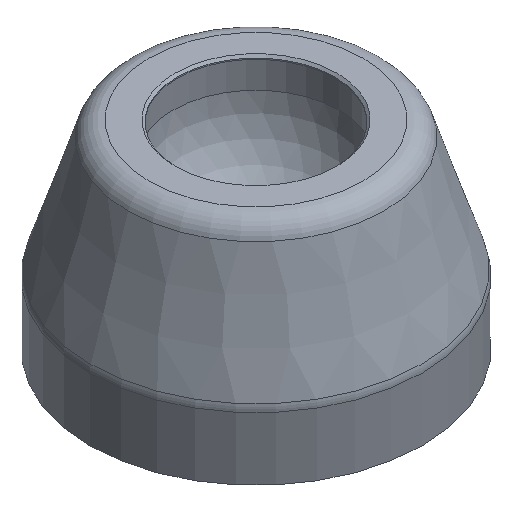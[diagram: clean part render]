
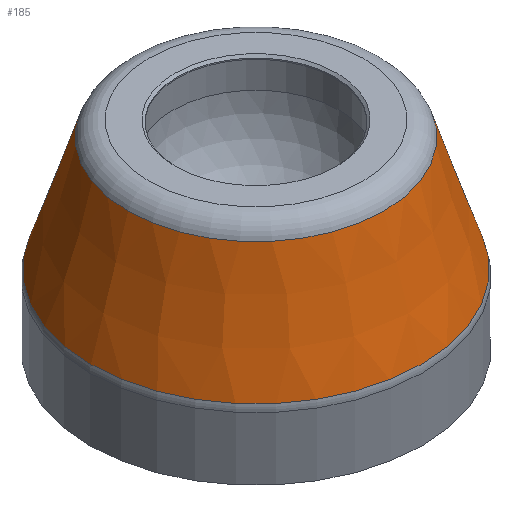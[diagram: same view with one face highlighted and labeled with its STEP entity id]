
A CAD part, isometric view. The second image highlights one B-rep face of the part: STEP entity #185.
In plain terms, the highlighted conical face has half-angle 18 degrees and reference radius 13.226 mm.
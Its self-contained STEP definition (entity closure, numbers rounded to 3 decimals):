
#185=ADVANCED_FACE('',(#1203,#1205),#1207,.T.);
#1203=FACE_OUTER_BOUND('',#1204,.T.);
#1204=EDGE_LOOP('',(#2228));
#1205=FACE_OUTER_BOUND('',#1206,.T.);
#1206=EDGE_LOOP('',(#2229));
#1207=CONICAL_SURFACE('',#1208,13.226,0.314);
#1208=AXIS2_PLACEMENT_3D('',#1209,#1210,#1211);
#1209=CARTESIAN_POINT('',(0.,0.,11.46));
#1210=DIRECTION('',(0.,0.,-1.));
#1211=DIRECTION('',(1.,0.,0.));
#2228=ORIENTED_EDGE('',*,*,#2759,.F.);
#2229=ORIENTED_EDGE('',*,*,#2757,.T.);
#2757=EDGE_CURVE('',#3456,#3456,#3457,.T.);
#2759=EDGE_CURVE('',#3460,#3460,#3461,.T.);
#3456=VERTEX_POINT('',#5415);
#3457=CIRCLE('',#5416,14.902);
#3460=VERTEX_POINT('',#5425);
#3461=CIRCLE('',#5426,11.55);
#5415=CARTESIAN_POINT('',(-14.902,0.,6.301));
#5416=AXIS2_PLACEMENT_3D('',#5417,#5418,#5419);
#5417=CARTESIAN_POINT('',(0.,0.,6.301));
#5418=DIRECTION('',(0.,0.,1.));
#5419=DIRECTION('',(-1.,0.,0.));
#5425=CARTESIAN_POINT('',(-11.55,0.,16.618));
#5426=AXIS2_PLACEMENT_3D('',#5427,#5428,#5429);
#5427=CARTESIAN_POINT('',(0.,0.,16.618));
#5428=DIRECTION('',(0.,0.,1.));
#5429=DIRECTION('',(-1.,0.,0.));
